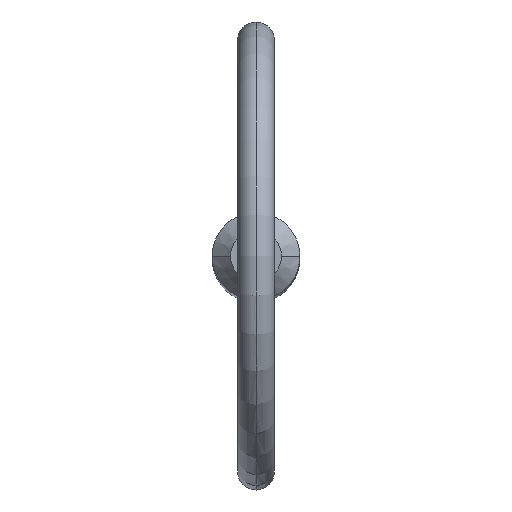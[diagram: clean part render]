
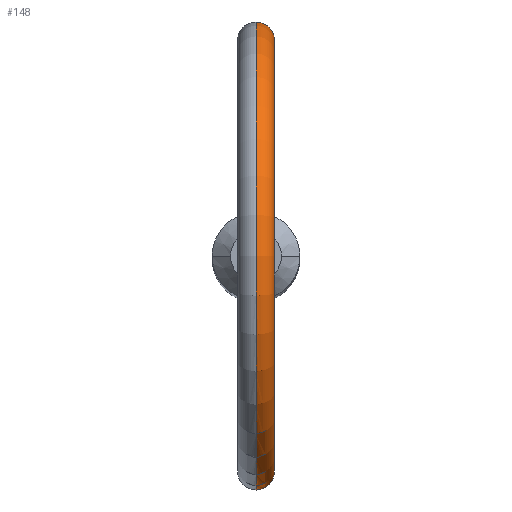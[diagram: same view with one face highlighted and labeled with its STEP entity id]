
A CAD part, top view. The second image highlights one B-rep face of the part: STEP entity #148.
In plain terms, the highlighted toroidal (fillet/blend) face has major radius 11.7 mm and minor radius 1 mm.
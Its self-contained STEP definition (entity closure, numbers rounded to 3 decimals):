
#5 = CARTESIAN_POINT ( 'NONE',  ( 0.625, 2.299, 66.421 ) ) ;
#14 = ORIENTED_EDGE ( 'NONE', *, *, #258, .T. ) ;
#16 = CARTESIAN_POINT ( 'NONE',  ( 0.966, 2.176, 67.497 ) ) ;
#21 = CARTESIAN_POINT ( 'NONE',  ( 0.996, -2.162, 67.364 ) ) ;
#24 = DIRECTION ( 'NONE',  ( 1., 0., 0. ) ) ;
#43 = CARTESIAN_POINT ( 'NONE',  ( 0.884, 2.21, 66.717 ) ) ;
#50 = CARTESIAN_POINT ( 'NONE',  ( 0., 2.38, 68.268 ) ) ;
#60 = EDGE_CURVE ( 'NONE', #281, #464, #214, .T. ) ;
#61 = CARTESIAN_POINT ( 'NONE',  ( 0., -2.38, 66.225 ) ) ;
#65 = CARTESIAN_POINT ( 'NONE',  ( 0., -2.38, 68.268 ) ) ;
#76 = CIRCLE ( 'NONE', #337, 12.7 ) ;
#88 = CARTESIAN_POINT ( 'NONE',  ( 0.793, 2.246, 67.853 ) ) ;
#101 = CARTESIAN_POINT ( 'NONE',  ( 0.793, -2.246, 67.852 ) ) ;
#103 = CARTESIAN_POINT ( 'NONE',  ( 0.625, -2.299, 66.421 ) ) ;
#115 = CARTESIAN_POINT ( 'NONE',  ( 0.133, 2.38, 66.225 ) ) ;
#125 = DIRECTION ( 'NONE',  ( 1., 0., 0. ) ) ;
#127 = CARTESIAN_POINT ( 'NONE',  ( 1.003, 2.158, 67.097 ) ) ;
#132 = CARTESIAN_POINT ( 'NONE',  ( 0.865, -2.218, 67.74 ) ) ;
#134 = CARTESIAN_POINT ( 'NONE',  ( 0.811, -2.24, 66.606 ) ) ;
#148 = ADVANCED_FACE ( 'NONE', ( #347 ), #251, .T. ) ;
#165 = CARTESIAN_POINT ( 'NONE',  ( 0.508, -2.328, 68.124 ) ) ;
#171 = CARTESIAN_POINT ( 'NONE',  ( 0.133, -2.38, 66.225 ) ) ;
#202 = CARTESIAN_POINT ( 'NONE',  ( 0.134, -2.38, 68.268 ) ) ;
#203 = CARTESIAN_POINT ( 'NONE',  ( 0., 2.38, 68.268 ) ) ;
#206 = B_SPLINE_CURVE_WITH_KNOTS ( 'NONE', 3,
 ( #287, #115, #367, #449, #5, #254, #43, #369, #127, #266, #16, #261, #88, #380, #232, #421, #301, #50 ),
 .UNSPECIFIED., .F., .F.,
 ( 4, 2, 2, 2, 2, 2, 2, 2, 4 ),
 ( 0.001, 0.001, 0.001, 0.002, 0.002, 0.003, 0.003, 0.003, 0.004 ),
 .UNSPECIFIED. ) ;
#208 = AXIS2_PLACEMENT_3D ( 'NONE', #304, #125, #418 ) ;
#213 = EDGE_CURVE ( 'NONE', #464, #424, #365, .T. ) ;
#214 = CIRCLE ( 'NONE', #242, 10.7 ) ;
#232 = CARTESIAN_POINT ( 'NONE',  ( 0.509, 2.328, 68.124 ) ) ;
#233 = CARTESIAN_POINT ( 'NONE',  ( 0.966, -2.176, 67.497 ) ) ;
#238 = CARTESIAN_POINT ( 'NONE',  ( 1.003, -2.158, 67.099 ) ) ;
#242 = AXIS2_PLACEMENT_3D ( 'NONE', #368, #402, #249 ) ;
#249 = DIRECTION ( 'NONE',  ( 0., 0., -1. ) ) ;
#251 = TOROIDAL_SURFACE ( 'NONE', #208, 11.7, 1. ) ;
#254 = CARTESIAN_POINT ( 'NONE',  ( 0.811, 2.24, 66.606 ) ) ;
#258 = EDGE_CURVE ( 'NONE', #300, #424, #76, .T. ) ;
#261 = CARTESIAN_POINT ( 'NONE',  ( 0.864, 2.218, 67.741 ) ) ;
#266 = CARTESIAN_POINT ( 'NONE',  ( 0.996, 2.162, 67.364 ) ) ;
#267 = CARTESIAN_POINT ( 'NONE',  ( 0., -2.38, 66.225 ) ) ;
#269 = CARTESIAN_POINT ( 'NONE',  ( 0., 2.38, 66.225 ) ) ;
#270 = ORIENTED_EDGE ( 'NONE', *, *, #340, .F. ) ;
#281 = VERTEX_POINT ( 'NONE', #203 ) ;
#287 = CARTESIAN_POINT ( 'NONE',  ( 0., 2.38, 66.225 ) ) ;
#300 = VERTEX_POINT ( 'NONE', #269 ) ;
#301 = CARTESIAN_POINT ( 'NONE',  ( 0.134, 2.38, 68.268 ) ) ;
#304 = CARTESIAN_POINT ( 'NONE',  ( 0., 0., 78.7 ) ) ;
#337 = AXIS2_PLACEMENT_3D ( 'NONE', #349, #24, #425 ) ;
#340 = EDGE_CURVE ( 'NONE', #300, #281, #206, .T. ) ;
#347 = FACE_OUTER_BOUND ( 'NONE', #468, .T. ) ;
#349 = CARTESIAN_POINT ( 'NONE',  ( 0., 0., 78.7 ) ) ;
#352 = CARTESIAN_POINT ( 'NONE',  ( 0.885, -2.21, 66.717 ) ) ;
#365 = B_SPLINE_CURVE_WITH_KNOTS ( 'NONE', 3,
 ( #465, #202, #389, #165, #430, #101, #132, #233, #21, #238, #467, #352, #134, #103, #462, #383, #171, #267 ),
 .UNSPECIFIED., .F., .F.,
 ( 4, 2, 2, 2, 2, 2, 2, 2, 4 ),
 ( 0.003, 0.003, 0.003, 0.004, 0.004, 0.005, 0.005, 0.005, 0.006 ),
 .UNSPECIFIED. ) ;
#367 = CARTESIAN_POINT ( 'NONE',  ( 0.267, 2.368, 66.25 ) ) ;
#368 = CARTESIAN_POINT ( 'NONE',  ( 0., 0., 78.7 ) ) ;
#369 = CARTESIAN_POINT ( 'NONE',  ( 0.981, 2.169, 66.962 ) ) ;
#380 = CARTESIAN_POINT ( 'NONE',  ( 0.614, 2.301, 68.045 ) ) ;
#383 = CARTESIAN_POINT ( 'NONE',  ( 0.268, -2.368, 66.251 ) ) ;
#385 = ORIENTED_EDGE ( 'NONE', *, *, #60, .F. ) ;
#389 = CARTESIAN_POINT ( 'NONE',  ( 0.268, -2.368, 68.237 ) ) ;
#402 = DIRECTION ( 'NONE',  ( 1., 0., 0. ) ) ;
#418 = DIRECTION ( 'NONE',  ( 0., 0., -1. ) ) ;
#421 = CARTESIAN_POINT ( 'NONE',  ( 0.267, 2.368, 68.237 ) ) ;
#424 = VERTEX_POINT ( 'NONE', #61 ) ;
#425 = DIRECTION ( 'NONE',  ( 0., 0., -1. ) ) ;
#430 = CARTESIAN_POINT ( 'NONE',  ( 0.615, -2.301, 68.044 ) ) ;
#449 = CARTESIAN_POINT ( 'NONE',  ( 0.513, 2.327, 66.349 ) ) ;
#462 = CARTESIAN_POINT ( 'NONE',  ( 0.513, -2.327, 66.348 ) ) ;
#464 = VERTEX_POINT ( 'NONE', #65 ) ;
#465 = CARTESIAN_POINT ( 'NONE',  ( 0., -2.38, 68.268 ) ) ;
#467 = CARTESIAN_POINT ( 'NONE',  ( 0.981, -2.169, 66.964 ) ) ;
#468 = EDGE_LOOP ( 'NONE', ( #270, #14, #470, #385 ) ) ;
#470 = ORIENTED_EDGE ( 'NONE', *, *, #213, .F. ) ;
